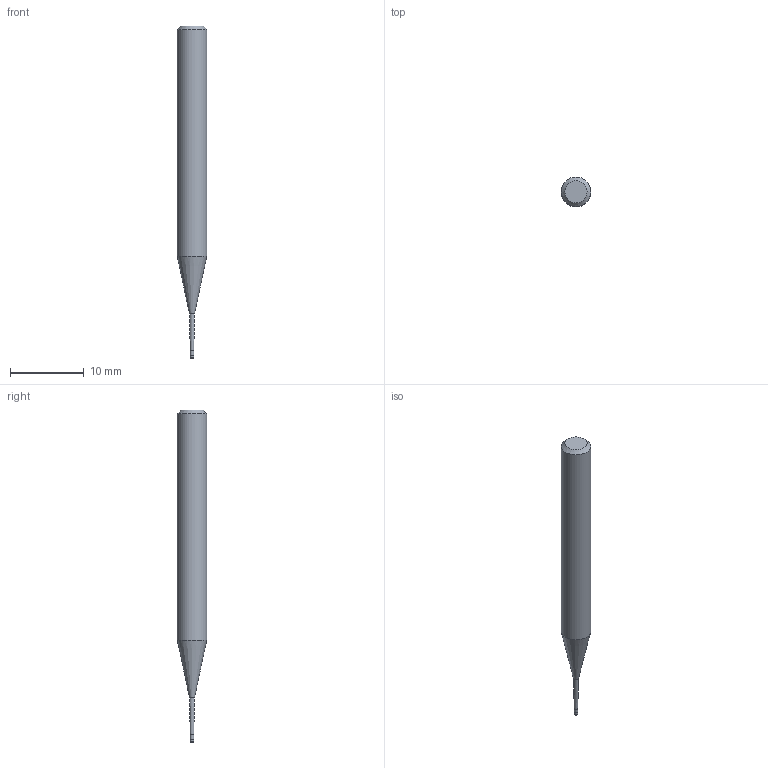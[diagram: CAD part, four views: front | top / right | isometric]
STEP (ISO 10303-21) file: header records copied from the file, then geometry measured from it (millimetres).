
FILE_DESCRIPTION((''),'2;1');
FILE_NAME('C:\Users\nsx150\AppData\Local\Temp\Mastercam 2021\YKS1SUSFZB\TEMP.step','2025-06-23T14:03:38',(''),(''),'STEP Write','Mastercam 2021 ... CNC Software, Inc.','');
FILE_SCHEMA(('AUTOMOTIVE_DESIGN'));
Length unit declared in the file: millimetre
Products named in the file (1): None
Bounding box: 4 x 4 x 45 mm (x, y, z)
Volume: 431.2 mm3; surface area: 470.4 mm2
Topology: 2 solids, 2 shells, 11 faces, 16 edges, 9 vertices
Faces by surface type: plane 4, cylinder 3, cone 3, torus 1
Full cylindrical faces by diameter (mm): 0.48 x1, 0.5 x1, 4 x1
Entity records: 253 total; most frequent: DIRECTION 44, CARTESIAN_POINT 31, AXIS2_PLACEMENT_3D 22, ORIENTED_EDGE 18, EDGE_LOOP 18, STYLED_ITEM 14, ADVANCED_FACE 11, FACE_BOUND 11
